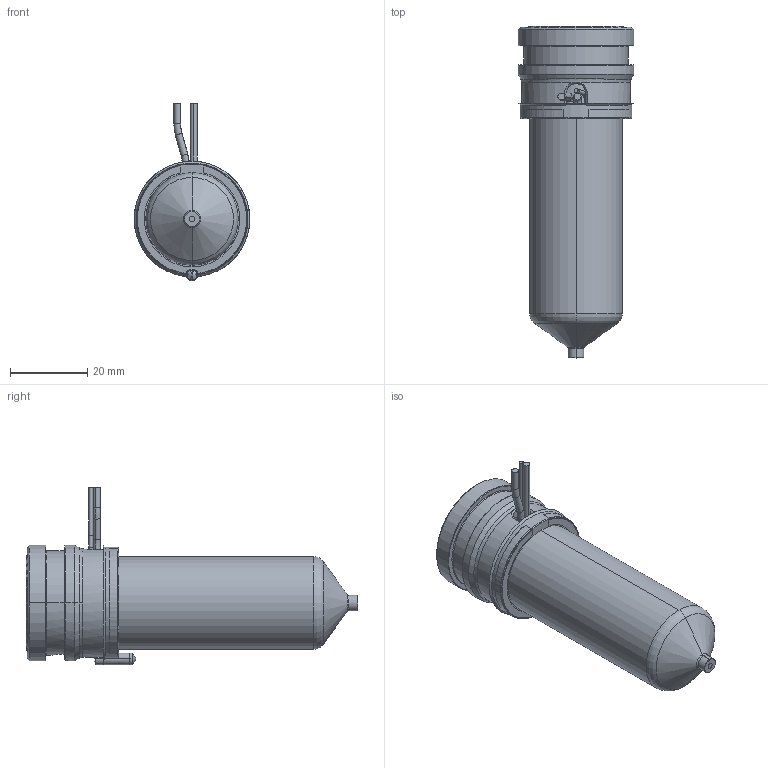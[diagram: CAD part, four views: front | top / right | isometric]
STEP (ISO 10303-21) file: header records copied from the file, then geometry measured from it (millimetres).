
FILE_DESCRIPTION((''),'2;1');
FILE_NAME('MPN-10-29-VP4-066-A','2026-02-05T12:42:16',('UPTIO'),('Thermoplay S.p.A.'),'CREO PARAMETRIC BY PTC INC, 2023494','CREO PARAMETRIC BY PTC INC, 2023494','');
FILE_SCHEMA(('CONFIG_CONTROL_DESIGN','SHAPE_APPEARANCE_LAYERS_GROUPS'));
Length unit declared in the file: millimetre
Products named in the file (1): MPN-10-29-VP4-066-A
Bounding box: 30 x 86.1 x 46 mm (x, y, z)
Volume: 27986.5 mm3; surface area: 27730.1 mm2
Topology: 2 solids, 3 shells, 583 faces, 1551 edges, 966 vertices
Faces by surface type: cylinder 180, plane 156, bspline 98, torus 70, cone 68, sphere 7, extrusion 4
Entity records: 31754 total; most frequent: CARTESIAN_POINT 14777, ORIENTED_EDGE 3090, DIRECTION 2700, EDGE_CURVE 1545, AXIS2_PLACEMENT_3D 1067, VERTEX_POINT 966, EDGE_LOOP 611, CIRCLE 585
